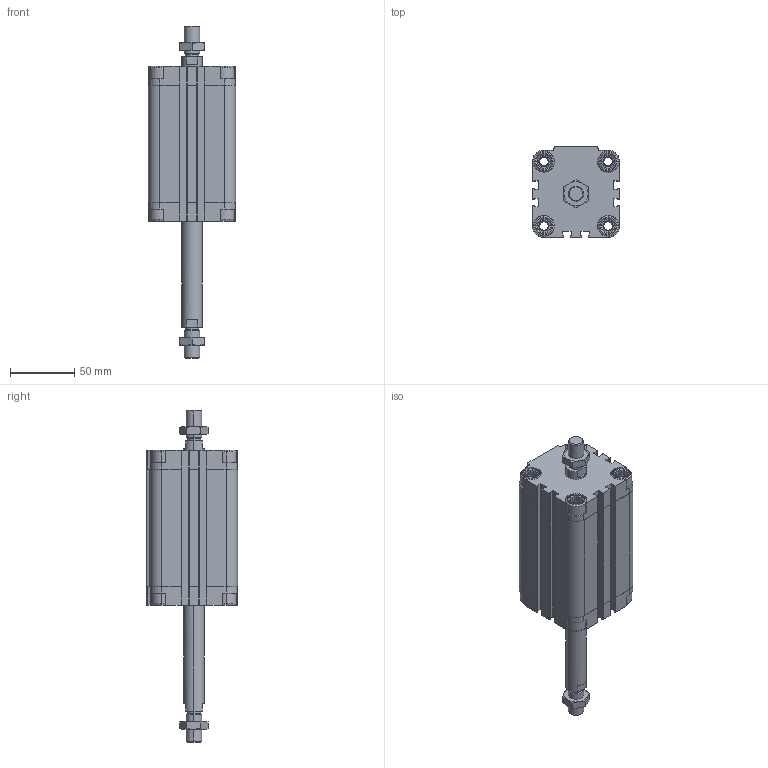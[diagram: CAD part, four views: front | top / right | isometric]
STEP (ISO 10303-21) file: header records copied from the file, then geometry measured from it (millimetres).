
FILE_DESCRIPTION (( 'STEP AP203' ), '1' );
FILE_NAME ('CDVU50-75M-P.STEP', '2020-07-21T15:19:29', ( '' ), ( '' ), 'SwSTEP 2.0', 'SolidWorks 2019', '' );
FILE_SCHEMA (( 'CONFIG_CONTROL_DESIGN' ));
Length unit declared in the file: millimetre
Products named in the file (1): CDVU50-75M-P
Bounding box: 68 x 71 x 258.5 mm (x, y, z)
Volume: 391618.8 mm3; surface area: 105053.8 mm2
Topology: 4 solids, 4 shells, 758 faces, 2004 edges, 1290 vertices
Faces by surface type: plane 438, cylinder 240, cone 64, torus 16
Entity records: 24259 total; most frequent: CARTESIAN_POINT 5321, ORIENTED_EDGE 4000, DIRECTION 3878, EDGE_CURVE 2000, AXIS2_PLACEMENT_3D 1335, VERTEX_POINT 1290, LINE 1208, VECTOR 1208
